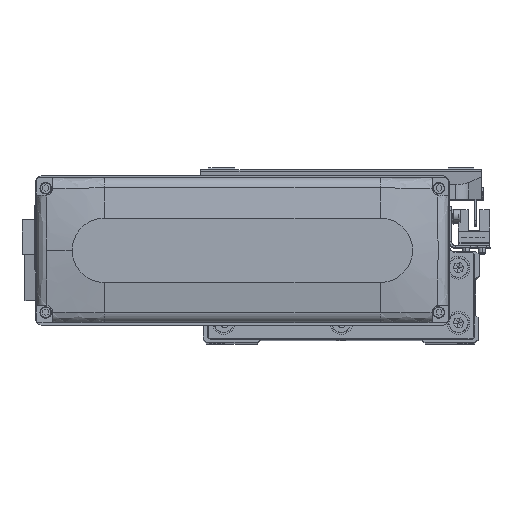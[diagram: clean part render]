
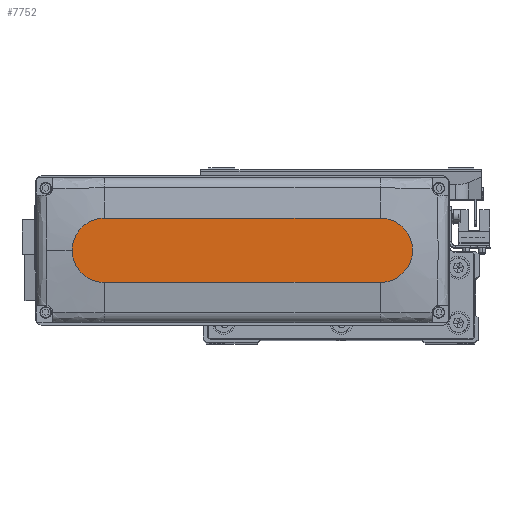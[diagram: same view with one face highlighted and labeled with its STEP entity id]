
A CAD part, top view. The second image highlights one B-rep face of the part: STEP entity #7752.
In plain terms, the highlighted planar face has unit normal (0, 0, 1).
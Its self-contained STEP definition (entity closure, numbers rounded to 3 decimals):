
#175 = CARTESIAN_POINT ( 'NONE',  ( 74., 0., 28.5 ) ) ;
#923 = ORIENTED_EDGE ( 'NONE', *, *, #24594, .T. ) ;
#2820 = AXIS2_PLACEMENT_3D ( 'NONE', #40782, #34194, #7867 ) ;
#3703 = AXIS2_PLACEMENT_3D ( 'NONE', #32754, #9695, #6842 ) ;
#5401 = VERTEX_POINT ( 'NONE', #42743 ) ;
#6719 = CIRCLE ( 'NONE', #31769, 14. ) ;
#6842 = DIRECTION ( 'NONE',  ( 1., 0., 0. ) ) ;
#7678 = CARTESIAN_POINT ( 'NONE',  ( -60., -14., 28.5 ) ) ;
#7752 = ADVANCED_FACE ( 'NONE', ( #35337 ), #21825, .T. ) ;
#7867 = DIRECTION ( 'NONE',  ( 1., 0., 0. ) ) ;
#8124 = VERTEX_POINT ( 'NONE', #17864 ) ;
#8198 = EDGE_CURVE ( 'NONE', #20304, #8124, #6719, .T. ) ;
#8929 = EDGE_CURVE ( 'NONE', #30023, #21975, #19050, .T. ) ;
#9147 = EDGE_CURVE ( 'NONE', #5401, #30023, #12076, .T. ) ;
#9695 = DIRECTION ( 'NONE',  ( 0., 0., 1. ) ) ;
#12076 = CIRCLE ( 'NONE', #3703, 14. ) ;
#12154 = CARTESIAN_POINT ( 'NONE',  ( 60., -14., 28.5 ) ) ;
#12481 = CARTESIAN_POINT ( 'NONE',  ( 0., 0., 28.5 ) ) ;
#12482 = ORIENTED_EDGE ( 'NONE', *, *, #8198, .T. ) ;
#14089 = ORIENTED_EDGE ( 'NONE', *, *, #8929, .T. ) ;
#17751 = EDGE_LOOP ( 'NONE', ( #22823, #21248, #14089, #923, #12482 ) ) ;
#17864 = CARTESIAN_POINT ( 'NONE',  ( 60., 14., 28.5 ) ) ;
#19050 = LINE ( 'NONE', #34934, #39894 ) ;
#20304 = VERTEX_POINT ( 'NONE', #175 ) ;
#21248 = ORIENTED_EDGE ( 'NONE', *, *, #9147, .T. ) ;
#21825 = PLANE ( 'NONE',  #26899 ) ;
#21975 = VERTEX_POINT ( 'NONE', #12154 ) ;
#22467 = DIRECTION ( 'NONE',  ( 0., 0., 1. ) ) ;
#22763 = DIRECTION ( 'NONE',  ( -1., 0., 0. ) ) ;
#22823 = ORIENTED_EDGE ( 'NONE', *, *, #27934, .T. ) ;
#24594 = EDGE_CURVE ( 'NONE', #21975, #20304, #38192, .T. ) ;
#25621 = LINE ( 'NONE', #39766, #37004 ) ;
#25966 = DIRECTION ( 'NONE',  ( 1., 0., 0. ) ) ;
#26899 = AXIS2_PLACEMENT_3D ( 'NONE', #12481, #22467, #25966 ) ;
#27934 = EDGE_CURVE ( 'NONE', #8124, #5401, #25621, .T. ) ;
#30023 = VERTEX_POINT ( 'NONE', #7678 ) ;
#31769 = AXIS2_PLACEMENT_3D ( 'NONE', #33263, #33690, #40269 ) ;
#31913 = DIRECTION ( 'NONE',  ( 1., 0., 0. ) ) ;
#32754 = CARTESIAN_POINT ( 'NONE',  ( -60., 0., 28.5 ) ) ;
#33263 = CARTESIAN_POINT ( 'NONE',  ( 60., 0., 28.5 ) ) ;
#33690 = DIRECTION ( 'NONE',  ( 0., 0., 1. ) ) ;
#34194 = DIRECTION ( 'NONE',  ( 0., 0., 1. ) ) ;
#34934 = CARTESIAN_POINT ( 'NONE',  ( -60., -14., 28.5 ) ) ;
#35337 = FACE_OUTER_BOUND ( 'NONE', #17751, .T. ) ;
#37004 = VECTOR ( 'NONE', #22763, 1000. ) ;
#38192 = CIRCLE ( 'NONE', #2820, 14. ) ;
#39766 = CARTESIAN_POINT ( 'NONE',  ( -60., 14., 28.5 ) ) ;
#39894 = VECTOR ( 'NONE', #31913, 1000. ) ;
#40269 = DIRECTION ( 'NONE',  ( 1., 0., 0. ) ) ;
#40782 = CARTESIAN_POINT ( 'NONE',  ( 60., 0., 28.5 ) ) ;
#42743 = CARTESIAN_POINT ( 'NONE',  ( -60., 14., 28.5 ) ) ;
